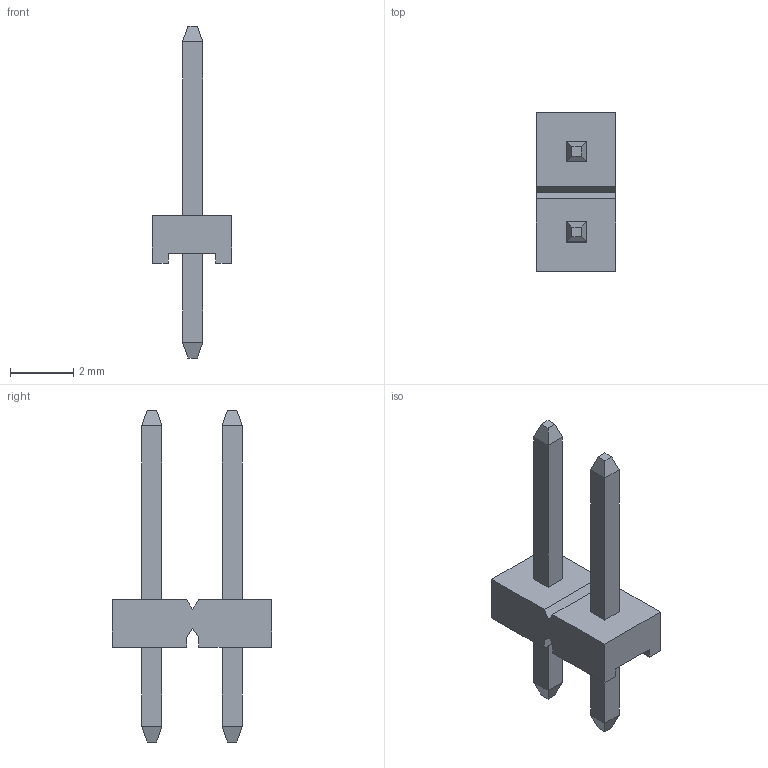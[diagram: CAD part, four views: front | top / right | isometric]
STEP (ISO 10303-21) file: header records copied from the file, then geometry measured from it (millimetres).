
FILE_DESCRIPTION (( 'STEP AP214' ), '1' );
FILE_NAME ('008261026110.STEP', '2023-05-10T06:23:47', ( '' ), ( '' ), 'SwSTEP 2.0', 'SolidWorks 2021', '' );
FILE_SCHEMA (( 'AUTOMOTIVE_DESIGN' ));
Length unit declared in the file: millimetre
Products named in the file (1): 008261026110
Bounding box: 2.5 x 5.04 x 10.5 mm (x, y, z)
Volume: 23.5 mm3; surface area: 96.7 mm2
Topology: 1 solids, 1 shells, 60 faces, 142 edges, 88 vertices
Faces by surface type: plane 60
Entity records: 1700 total; most frequent: CARTESIAN_POINT 291, ORIENTED_EDGE 284, DIRECTION 264, EDGE_CURVE 142, LINE 142, VECTOR 142, VERTEX_POINT 88, EDGE_LOOP 64
